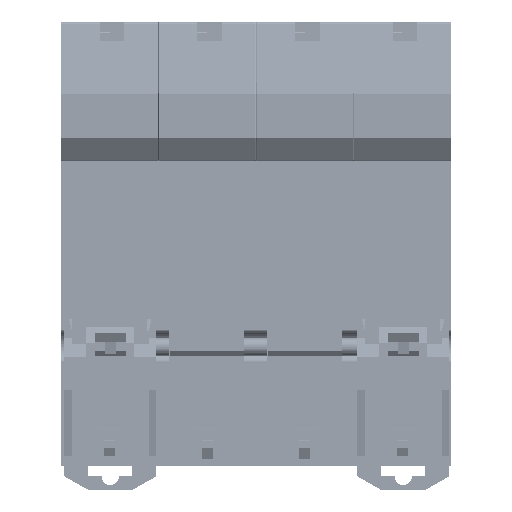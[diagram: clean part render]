
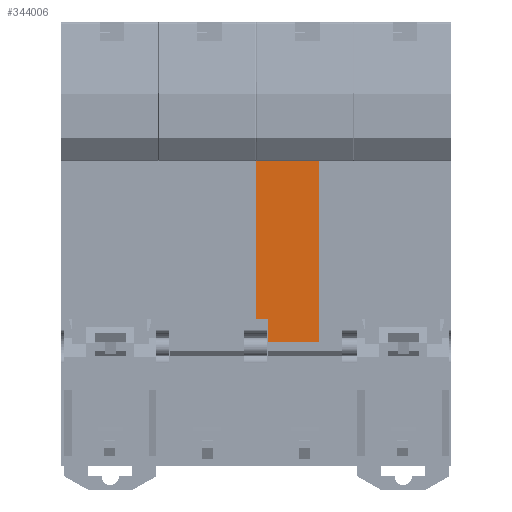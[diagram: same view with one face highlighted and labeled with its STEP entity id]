
A CAD part, left-side view. The second image highlights one B-rep face of the part: STEP entity #344006.
In plain terms, the highlighted planar face has unit normal (-1, 0, 0).
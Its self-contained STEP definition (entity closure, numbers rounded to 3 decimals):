
#15041 = CARTESIAN_POINT ( 'NONE',  ( -2.5, 35.6, 26.9 ) ) ;
#17149 = ORIENTED_EDGE ( 'NONE', *, *, #166369, .T. ) ;
#27280 = ORIENTED_EDGE ( 'NONE', *, *, #511973, .T. ) ;
#50119 = DIRECTION ( 'NONE',  ( 0., 0., 1. ) ) ;
#53340 = EDGE_LOOP ( 'NONE', ( #27280, #697029, #412476, #448289, #17149, #272469 ) ) ;
#58612 = CARTESIAN_POINT ( 'NONE',  ( -2.5, 35.6, 58.1 ) ) ;
#96041 = VECTOR ( 'NONE', #605971, 1000. ) ;
#98278 = EDGE_CURVE ( 'NONE', #360447, #732628, #208518, .T. ) ;
#134426 = LINE ( 'NONE', #848420, #314710 ) ;
#137452 = VECTOR ( 'NONE', #143885, 1000. ) ;
#143885 = DIRECTION ( 'NONE',  ( 0., 0., 1. ) ) ;
#166369 = EDGE_CURVE ( 'NONE', #732628, #591648, #134426, .T. ) ;
#184548 = CARTESIAN_POINT ( 'NONE',  ( -2.5, 35.6, 26.9 ) ) ;
#192784 = VECTOR ( 'NONE', #698305, 1000. ) ;
#208518 = LINE ( 'NONE', #354563, #137452 ) ;
#216533 = CARTESIAN_POINT ( 'NONE',  ( -2.5, 24.1, 22.6 ) ) ;
#272469 = ORIENTED_EDGE ( 'NONE', *, *, #277319, .T. ) ;
#277319 = EDGE_CURVE ( 'NONE', #591648, #359717, #500496, .T. ) ;
#277604 = DIRECTION ( 'NONE',  ( 0., -1., 0. ) ) ;
#293015 = CARTESIAN_POINT ( 'NONE',  ( -2.5, 33.45, 22.6 ) ) ;
#314710 = VECTOR ( 'NONE', #457279, 1000. ) ;
#326085 = EDGE_CURVE ( 'NONE', #697813, #360447, #596105, .T. ) ;
#344006 = ADVANCED_FACE ( 'NONE', ( #841395 ), #591728, .F. ) ;
#354563 = CARTESIAN_POINT ( 'NONE',  ( -2.5, 24.1, 58.1 ) ) ;
#359717 = VERTEX_POINT ( 'NONE', #184548 ) ;
#360447 = VERTEX_POINT ( 'NONE', #216533 ) ;
#385670 = DIRECTION ( 'NONE',  ( 1., 0., 0. ) ) ;
#412476 = ORIENTED_EDGE ( 'NONE', *, *, #326085, .T. ) ;
#422512 = AXIS2_PLACEMENT_3D ( 'NONE', #58612, #385670, #50119 ) ;
#448289 = ORIENTED_EDGE ( 'NONE', *, *, #98278, .T. ) ;
#457279 = DIRECTION ( 'NONE',  ( 0., 1., 0. ) ) ;
#480007 = DIRECTION ( 'NONE',  ( 0., -1., 0. ) ) ;
#489602 = CARTESIAN_POINT ( 'NONE',  ( -2.5, 33.45, 26.9 ) ) ;
#500496 = LINE ( 'NONE', #685690, #192784 ) ;
#511973 = EDGE_CURVE ( 'NONE', #359717, #697023, #793618, .T. ) ;
#582076 = CARTESIAN_POINT ( 'NONE',  ( -2.5, 35.6, 58.1 ) ) ;
#591648 = VERTEX_POINT ( 'NONE', #582076 ) ;
#591728 = PLANE ( 'NONE',  #422512 ) ;
#596105 = LINE ( 'NONE', #789671, #826972 ) ;
#605971 = DIRECTION ( 'NONE',  ( 0., 0., -1. ) ) ;
#639285 = CARTESIAN_POINT ( 'NONE',  ( -2.5, 24.1, 58.1 ) ) ;
#683338 = CARTESIAN_POINT ( 'NONE',  ( -2.5, 33.45, 58.1 ) ) ;
#685690 = CARTESIAN_POINT ( 'NONE',  ( -2.5, 35.6, 58.1 ) ) ;
#697023 = VERTEX_POINT ( 'NONE', #489602 ) ;
#697029 = ORIENTED_EDGE ( 'NONE', *, *, #748363, .T. ) ;
#697813 = VERTEX_POINT ( 'NONE', #293015 ) ;
#698305 = DIRECTION ( 'NONE',  ( 0., 0., -1. ) ) ;
#723350 = VECTOR ( 'NONE', #277604, 1000. ) ;
#732628 = VERTEX_POINT ( 'NONE', #639285 ) ;
#748363 = EDGE_CURVE ( 'NONE', #697023, #697813, #816487, .T. ) ;
#789671 = CARTESIAN_POINT ( 'NONE',  ( -2.5, 35.6, 22.6 ) ) ;
#793618 = LINE ( 'NONE', #15041, #723350 ) ;
#816487 = LINE ( 'NONE', #683338, #96041 ) ;
#826972 = VECTOR ( 'NONE', #480007, 1000. ) ;
#841395 = FACE_OUTER_BOUND ( 'NONE', #53340, .T. ) ;
#848420 = CARTESIAN_POINT ( 'NONE',  ( -2.5, 56.7, 58.1 ) ) ;
